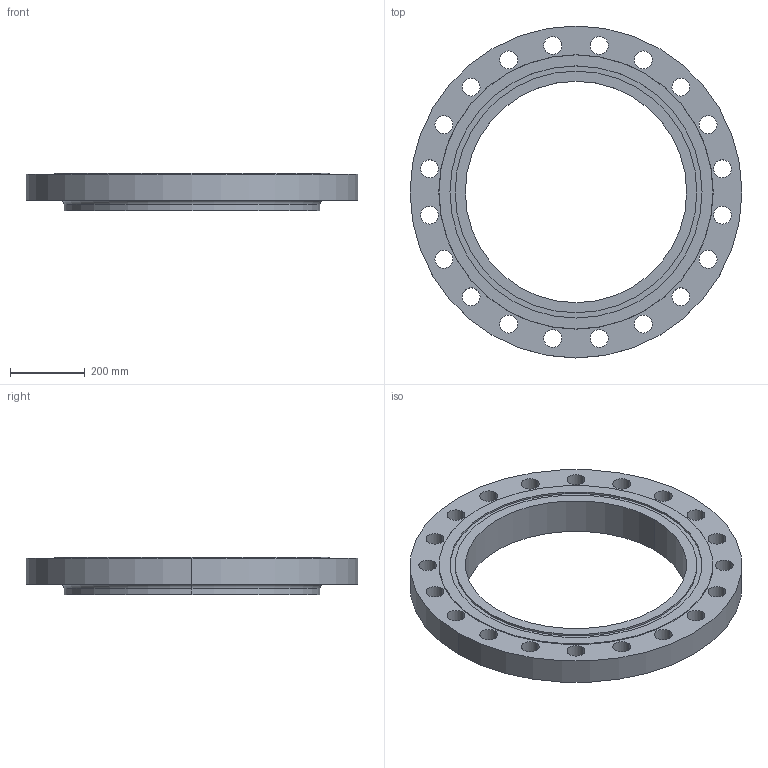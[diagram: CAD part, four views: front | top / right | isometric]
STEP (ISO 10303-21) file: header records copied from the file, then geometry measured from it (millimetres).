
FILE_DESCRIPTION (( 'STEP AP214' ), '1' );
FILE_NAME ('PN40 DN600 Type 13 - Type D Face.STEP', '2018-12-28T22:59:02', ( '' ), ( '' ), 'SwSTEP 2.0', 'SolidWorks 2019', '' );
FILE_SCHEMA (( 'AUTOMOTIVE_DESIGN' ));
Length unit declared in the file: millimetre
Products named in the file (1): PN40 DN600 Type 13 - Type D Face
Bounding box: 890 x 890 x 100 mm (x, y, z)
Volume: 24468966.8 mm3; surface area: 1285808.8 mm2
Topology: 1 solids, 1 shells, 60 faces, 160 edges, 106 vertices
Faces by surface type: cylinder 50, plane 6, torus 2, cone 2
Entity records: 2054 total; most frequent: DIRECTION 390, CARTESIAN_POINT 327, ORIENTED_EDGE 320, AXIS2_PLACEMENT_3D 169, EDGE_CURVE 160, CIRCLE 108, VERTEX_POINT 106, EDGE_LOOP 106
